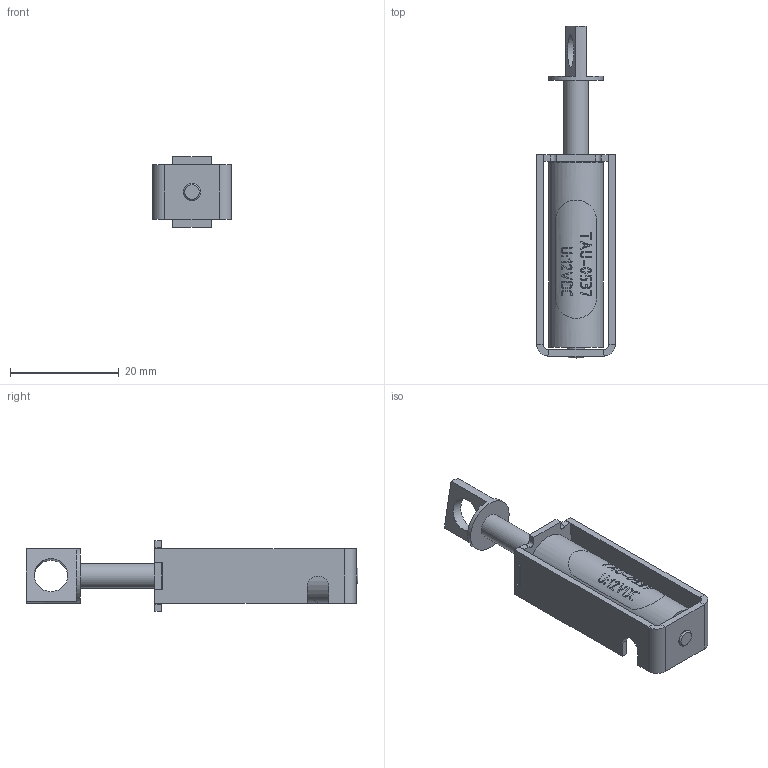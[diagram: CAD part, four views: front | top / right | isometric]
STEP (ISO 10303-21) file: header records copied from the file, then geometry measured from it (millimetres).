
FILE_DESCRIPTION(('FreeCAD Model'),'2;1');
FILE_NAME('Open CASCADE Shape Model','2023-05-06T18:44:57',('Author'),( ''),'Open CASCADE STEP processor 7.5','FreeCAD','Unknown');
FILE_SCHEMA(('AUTOMOTIVE_DESIGN { 1 0 10303 214 1 1 1 1 }'));
Length unit declared in the file: millimetre
Products named in the file (3): solenoid; hammer_v2
Assembly tree (2 placements, depth 2):
  solenoid
    solenoid
    hammer_v2
Bounding box: 14.5 x 61.03 x 13 mm (x, y, z)
Volume: 3864.9 mm3; surface area: 4665 mm2
Topology: 4 solids, 4 shells, 126 faces, 630 edges, 555 vertices
Faces by surface type: plane 66, cylinder 58, cone 2
Full cylindrical faces by diameter (mm): 3.2 x2, 4.5 x1, 4.7 x1, 5.5 x1, 6.2 x1, 10 x2
Entity records: 10192 total; most frequent: CARTESIAN_POINT 4386, ORIENTED_EDGE 1228, DIRECTION 676, EDGE_CURVE 614, VERTEX_POINT 550, B_SPLINE_CURVE_WITH_KNOTS 266, AXIS2_PLACEMENT_3D 229, LINE 218
